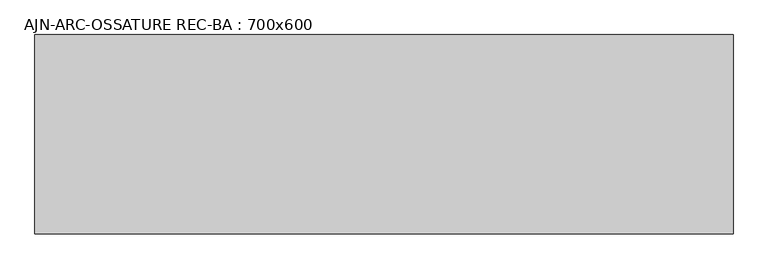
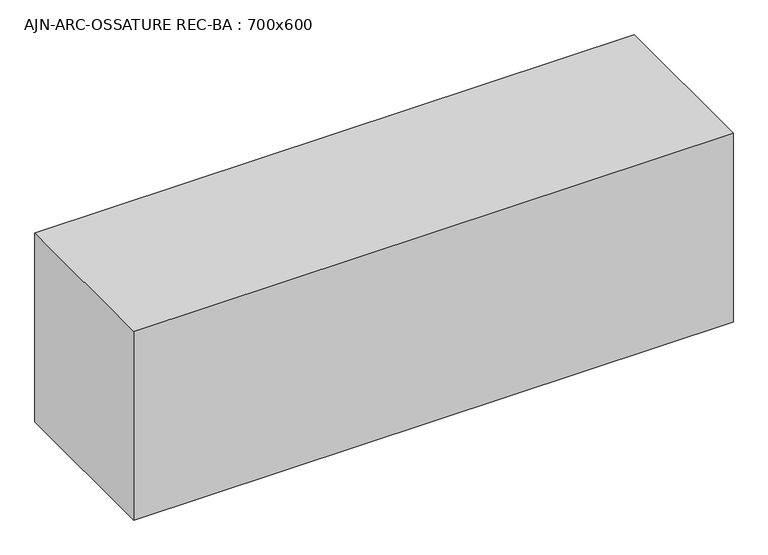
"""IFC4 building model written with IfcOpenShell, lengths in millimetres: beam geometry, AJN-ARC-OSSATURE REC-BA : 700x600."""

from ifc_helpers import new_model, si_unit, frame, origin, place, context, project, spatial, polyline, outline, extrude, source, transform, mapped, element, save


def ajn_arc_ossature_rec_ba_700x600_a03432ce(model_context):
    return source(origin(), model_context, "Body", "SweptSolid", [
        extrude(outline(polyline([(1050.0, 300.0), (1050.0, -300.0), (-1050.0, -300.0), (-1050.0, 300.0), (1050.0, 300.0)])), frame((0.0, 0.0, -350.0), z_axis=(0.0, 0.0, 1.0), x_axis=(1.0, 0.0, 0.0)), (0.0, 0.0, 1.0), 700.0),
    ])


if __name__ == "__main__":
    model = new_model("IFC4")
    model_context = context("Model", 3, world=origin())
    ifc_project = project(units=[si_unit("LENGTHUNIT", "METRE", prefix="MILLI")], contexts=[model_context])
    site = spatial("IfcSite", under=ifc_project)
    building = spatial("IfcBuilding", under=site)
    placement = place(None, origin())
    ajn_arc_ossature_rec_ba_700x600_shape = ajn_arc_ossature_rec_ba_700x600_a03432ce(model_context)
    element("IfcBeam", 1, ObjectType="AJN-ARC-OSSATURE REC-BA : 700x600", at=placement, inside=building, context=model_context, shape_type="MappedRepresentation", body=[
        mapped(ajn_arc_ossature_rec_ba_700x600_shape, transform((0.0, 0.0, 0.0), x_axis=(1.0, 0.0, 0.0), y_axis=(0.0, 1.0, 0.0), z_axis=(0.0, 0.0, 1.0))),
    ])
    save(model, "model.ifc")
